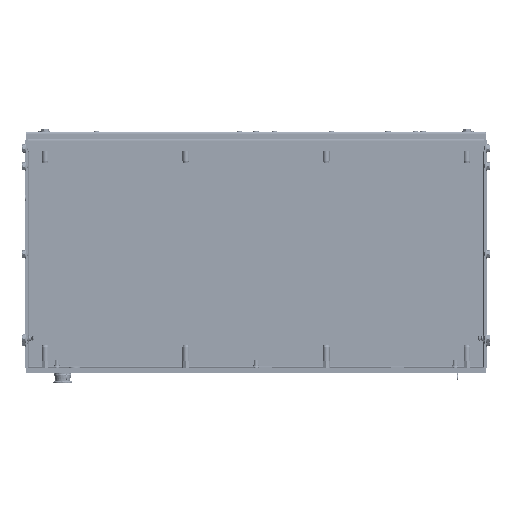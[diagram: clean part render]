
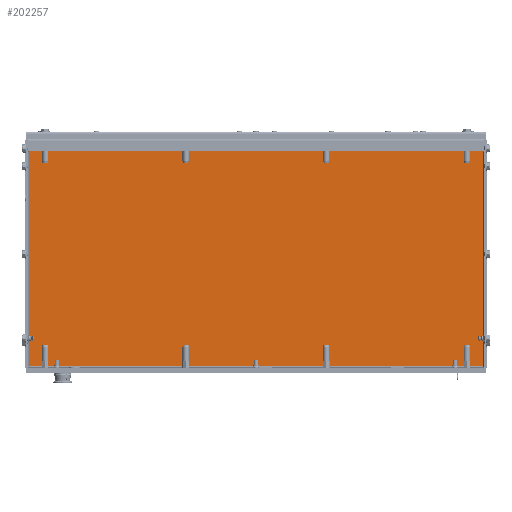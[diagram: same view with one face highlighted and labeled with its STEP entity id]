
A CAD part, front view. The second image highlights one B-rep face of the part: STEP entity #202257.
In plain terms, the highlighted planar face has unit normal (0, -1, 0).
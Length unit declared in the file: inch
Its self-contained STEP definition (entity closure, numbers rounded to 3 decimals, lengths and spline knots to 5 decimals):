
#31536 = CARTESIAN_POINT ( 'NONE',  ( -9.681, -0.036, 4.808 ) ) ;
#46150 = CARTESIAN_POINT ( 'NONE',  ( -9.681, -0.036, -4.81116 ) ) ;
#62640 = FACE_OUTER_BOUND ( 'NONE', #188821, .T. ) ;
#92927 = ORIENTED_EDGE ( 'NONE', *, *, #738064, .F. ) ;
#108619 = DIRECTION ( 'NONE',  ( 0., 0., 1. ) ) ;
#115416 = CARTESIAN_POINT ( 'NONE',  ( -9.681, -0.036, -4.808 ) ) ;
#135681 = VERTEX_POINT ( 'NONE', #115416 ) ;
#153368 = LINE ( 'NONE', #46150, #483922 ) ;
#171379 = EDGE_CURVE ( 'NONE', #135681, #599631, #153368, .T. ) ;
#188821 = EDGE_LOOP ( 'NONE', ( #92927, #625808, #574698, #638335 ) ) ;
#195093 = DIRECTION ( 'NONE',  ( 0., 1., 0. ) ) ;
#195768 = CARTESIAN_POINT ( 'NONE',  ( 9.68416, -0.036, -4.808 ) ) ;
#202257 = ADVANCED_FACE ( 'NONE', ( #62640 ), #567221, .F. ) ;
#206622 = EDGE_CURVE ( 'NONE', #599631, #279982, #522668, .T. ) ;
#210220 = DIRECTION ( 'NONE',  ( 0., 0., -1. ) ) ;
#211661 = VECTOR ( 'NONE', #688201, 39.37008 ) ;
#218924 = LINE ( 'NONE', #195768, #364704 ) ;
#219725 = AXIS2_PLACEMENT_3D ( 'NONE', #686854, #195093, #629650 ) ;
#258353 = DIRECTION ( 'NONE',  ( -1., 0., 0. ) ) ;
#279982 = VERTEX_POINT ( 'NONE', #452426 ) ;
#303826 = LINE ( 'NONE', #642068, #430174 ) ;
#364704 = VECTOR ( 'NONE', #258353, 39.37008 ) ;
#430174 = VECTOR ( 'NONE', #210220, 39.37008 ) ;
#452426 = CARTESIAN_POINT ( 'NONE',  ( 9.681, -0.036, 4.808 ) ) ;
#483922 = VECTOR ( 'NONE', #108619, 39.37008 ) ;
#512529 = EDGE_CURVE ( 'NONE', #279982, #674225, #303826, .T. ) ;
#522668 = LINE ( 'NONE', #625743, #211661 ) ;
#567221 = PLANE ( 'NONE',  #219725 ) ;
#574698 = ORIENTED_EDGE ( 'NONE', *, *, #206622, .F. ) ;
#599631 = VERTEX_POINT ( 'NONE', #31536 ) ;
#625743 = CARTESIAN_POINT ( 'NONE',  ( -9.68416, -0.036, 4.808 ) ) ;
#625808 = ORIENTED_EDGE ( 'NONE', *, *, #512529, .F. ) ;
#629650 = DIRECTION ( 'NONE',  ( 0., 0., 1. ) ) ;
#638335 = ORIENTED_EDGE ( 'NONE', *, *, #171379, .F. ) ;
#642068 = CARTESIAN_POINT ( 'NONE',  ( 9.681, -0.036, 4.81116 ) ) ;
#674225 = VERTEX_POINT ( 'NONE', #704742 ) ;
#686854 = CARTESIAN_POINT ( 'NONE',  ( -9.748, -0.036, -4.875 ) ) ;
#688201 = DIRECTION ( 'NONE',  ( 1., 0., 0. ) ) ;
#704742 = CARTESIAN_POINT ( 'NONE',  ( 9.681, -0.036, -4.808 ) ) ;
#738064 = EDGE_CURVE ( 'NONE', #674225, #135681, #218924, .T. ) ;
